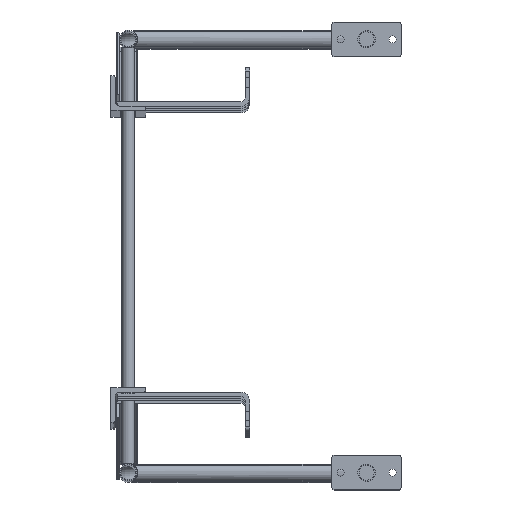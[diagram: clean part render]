
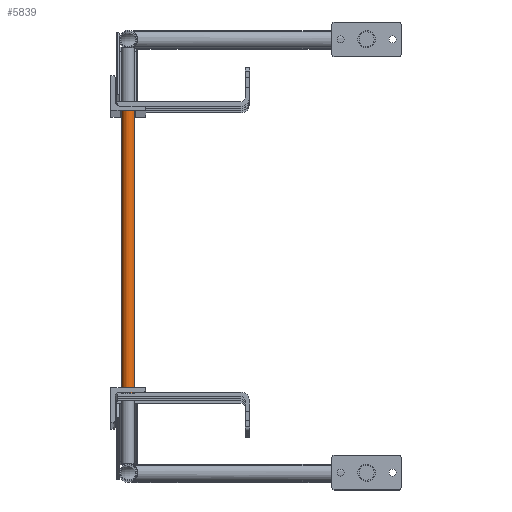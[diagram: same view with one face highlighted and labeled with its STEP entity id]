
A CAD part, top view. The second image highlights one B-rep face of the part: STEP entity #5839.
In plain terms, the highlighted cylindrical face has radius 9.525 mm (diameter 19.05 mm), a full revolution.
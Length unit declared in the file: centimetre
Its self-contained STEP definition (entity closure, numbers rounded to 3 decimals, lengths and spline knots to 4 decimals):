
#1020=FACE_BOUND('',#1603,.T.);
#1248=FACE_OUTER_BOUND('',#1602,.T.);
#1602=EDGE_LOOP('',(#3876));
#1603=EDGE_LOOP('',(#3877));
#2156=CIRCLE('',#6239,0.9525);
#2157=CIRCLE('',#6240,0.9525);
#2516=VERTEX_POINT('',#8960);
#2517=VERTEX_POINT('',#8962);
#3080=EDGE_CURVE('',#2516,#2516,#2156,.T.);
#3081=EDGE_CURVE('',#2517,#2517,#2157,.T.);
#3876=ORIENTED_EDGE('',*,*,#3080,.T.);
#3877=ORIENTED_EDGE('',*,*,#3081,.F.);
#5296=CYLINDRICAL_SURFACE('',#6238,0.9525);
#5839=ADVANCED_FACE('',(#1248,#1020),#5296,.T.);
#6238=AXIS2_PLACEMENT_3D('',#8959,#6992,#6993);
#6239=AXIS2_PLACEMENT_3D('',#8961,#6994,#6995);
#6240=AXIS2_PLACEMENT_3D('',#8963,#6996,#6997);
#6992=DIRECTION('center_axis',(0.,-1.,0.));
#6993=DIRECTION('ref_axis',(1.,0.,0.));
#6994=DIRECTION('center_axis',(0.,1.,0.));
#6995=DIRECTION('ref_axis',(1.,0.,0.));
#6996=DIRECTION('center_axis',(0.,1.,0.));
#6997=DIRECTION('ref_axis',(1.,0.,0.));
#8959=CARTESIAN_POINT('Origin',(2.54,0.4762,582.93));
#8960=CARTESIAN_POINT('',(1.5875,-41.4338,582.93));
#8961=CARTESIAN_POINT('Origin',(2.54,-41.4338,582.93));
#8962=CARTESIAN_POINT('',(1.5875,0.4762,582.93));
#8963=CARTESIAN_POINT('Origin',(2.54,0.4762,582.93));
